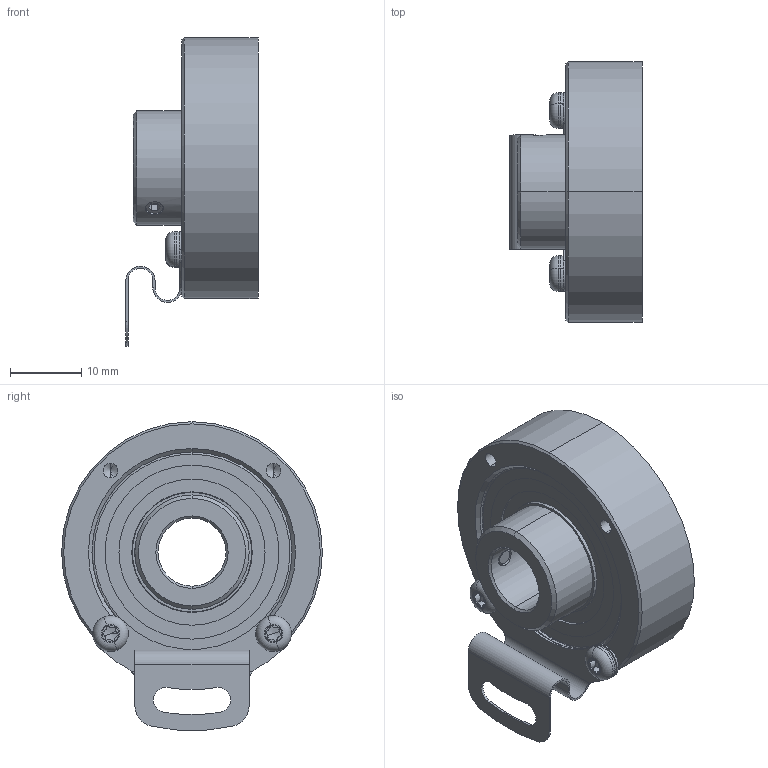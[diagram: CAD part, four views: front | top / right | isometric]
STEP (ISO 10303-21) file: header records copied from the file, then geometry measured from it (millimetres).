
FILE_DESCRIPTION (( 'STEP AP214' ), '1' );
FILE_NAME ('drawing-ucd-ast0-q3a-n.STEP', '2017-01-16T10:48:22', ( '' ), ( '' ), 'SwSTEP 2.0', 'SolidWorks 2015', '' );
FILE_SCHEMA (( 'AUTOMOTIVE_DESIGN' ));
Length unit declared in the file: millimetre
Products named in the file (1): drawing-ucd-ast0-q3a-n
Bounding box: 18.5 x 36.5 x 43.18 mm (x, y, z)
Volume: 9233.1 mm3; surface area: 12111.6 mm2
Topology: 20 solids, 20 shells, 369 faces, 911 edges, 557 vertices
Faces by surface type: cylinder 128, plane 85, cone 74, bspline 62, torus 20
Entity records: 13459 total; most frequent: CARTESIAN_POINT 4712, DIRECTION 1800, ORIENTED_EDGE 1738, EDGE_CURVE 869, AXIS2_PLACEMENT_3D 777, VERTEX_POINT 557, CIRCLE 469, EDGE_LOOP 426
